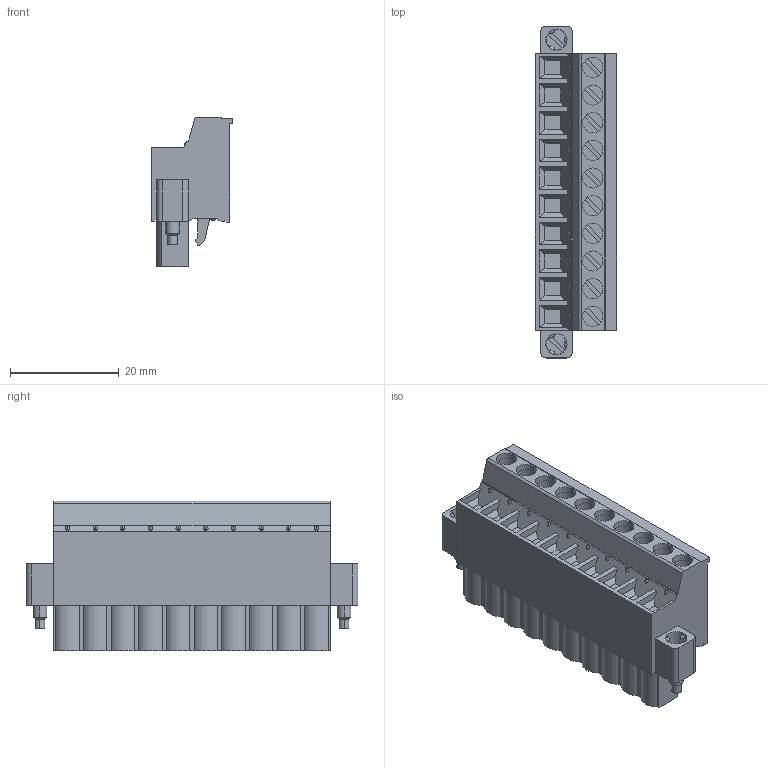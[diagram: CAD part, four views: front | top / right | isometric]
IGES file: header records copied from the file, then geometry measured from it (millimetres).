
Start section:  PTC IGES file: conn_crio_10_pos_cmbcn.igs
Global section: file name: conn_crio_10_pos_cmbcn.igs; native system: Pro/ENGINEER by Parametric Technology Corporation; preprocessor: 2006080; author: chrisj; organization: Unknown; date: 070125.115138; units: inch
Bounding box: 15 x 60.96 x 27.5 mm (x, y, z)
Surface area: 6899.4 mm2 (no closed solid volume)
Topology: 0 solids, 0 shells, 615 faces, 3122 edges, 3101 vertices
Faces by surface type: bspline 390, revolution 225
